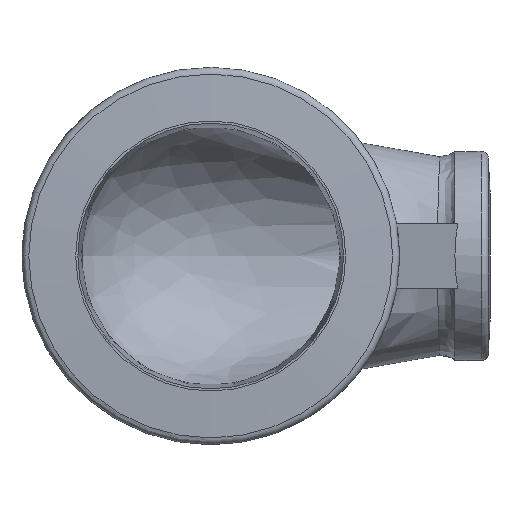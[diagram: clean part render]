
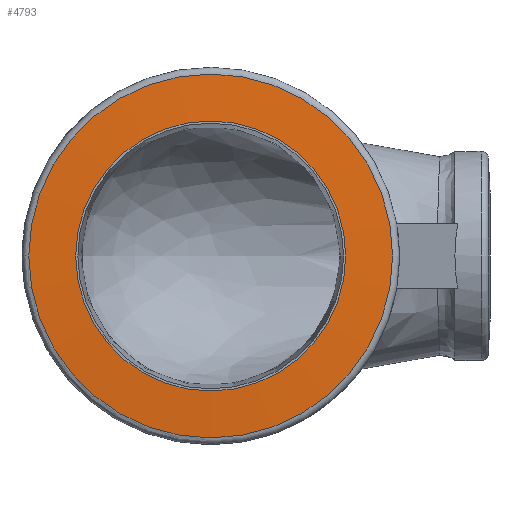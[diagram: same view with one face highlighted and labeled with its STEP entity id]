
A CAD part, front view. The second image highlights one B-rep face of the part: STEP entity #4793.
In plain terms, the highlighted conical face has half-angle 87 degrees and reference radius 22.6 mm.
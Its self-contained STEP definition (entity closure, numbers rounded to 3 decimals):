
#3190=CARTESIAN_POINT('',(25.402,0.343,0.));
#3191=VERTEX_POINT('',#3190);
#3192=CARTESIAN_POINT('',(0.0,0.343,0.));
#3193=DIRECTION('',(0.0,1.0,0.0));
#3194=DIRECTION('',(-1.0,0.0,0.0));
#3195=AXIS2_PLACEMENT_3D('',#3192,#3193,#3194);
#3196=CIRCLE('',#3195,25.402);
#3197=EDGE_CURVE('',#3191,#3191,#3196,.T.);
#4774=CARTESIAN_POINT('',(0.0,0.197,0.0));
#4775=DIRECTION('',(0.0,1.0,0.0));
#4776=DIRECTION('',(-1.0,0.0,0.0));
#4777=AXIS2_PLACEMENT_3D('',#4774,#4775,#4776);
#4778=CONICAL_SURFACE('',#4777,22.6,87.);
#4779=ORIENTED_EDGE('',*,*,#3197,.F.);
#4780=EDGE_LOOP('',(#4779));
#4781=FACE_OUTER_BOUND('',#4780,.T.);
#4782=CARTESIAN_POINT('',(18.85,0.0,0.));
#4783=VERTEX_POINT('',#4782);
#4784=CARTESIAN_POINT('',(0.0,0.0,0.0));
#4785=DIRECTION('',(0.0,1.0,0.0));
#4786=DIRECTION('',(-1.0,0.0,0.0));
#4787=AXIS2_PLACEMENT_3D('',#4784,#4785,#4786);
#4788=CIRCLE('',#4787,18.85);
#4789=EDGE_CURVE('',#4783,#4783,#4788,.T.);
#4790=ORIENTED_EDGE('',*,*,#4789,.T.);
#4791=EDGE_LOOP('',(#4790));
#4792=FACE_BOUND('',#4791,.T.);
#4793=ADVANCED_FACE('',(#4781,#4792),#4778,.T.);
